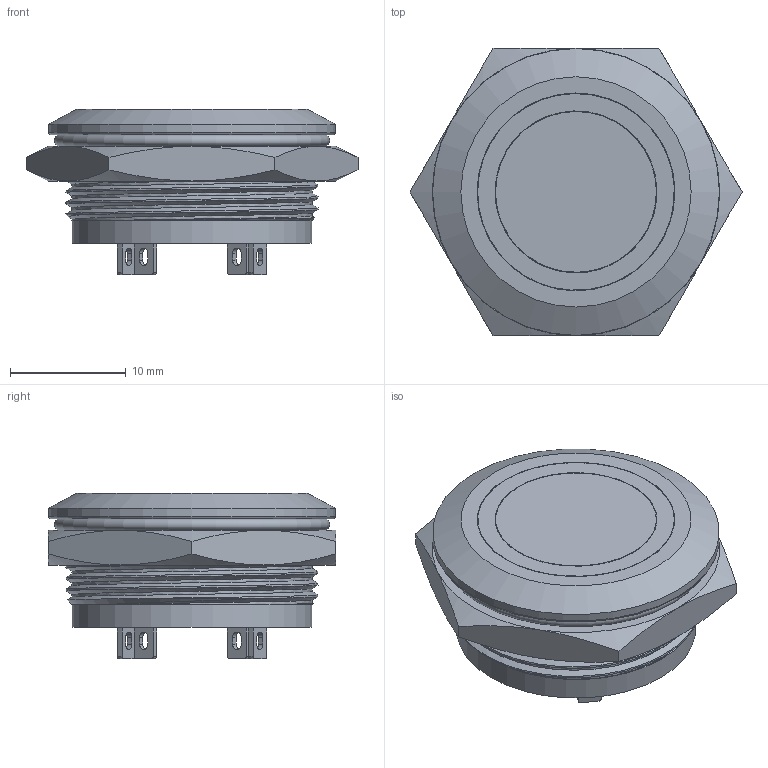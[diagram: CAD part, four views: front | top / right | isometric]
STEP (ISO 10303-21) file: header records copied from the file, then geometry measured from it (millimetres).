
FILE_DESCRIPTION(/* description */ (''),/* implementation_level */ '2;1');
FILE_NAME(/* name */ 'FM22S-SFP-10D1.stp',/* time_stamp */ '2020-08-05T11:12:20+08:00',/* author */ (''),/* organization */ (''),/* preprocessor_version */ 'ST-DEVELOPER v16.7',/* originating_system */ 'SIEMENS PLM Software NX 12.0',/* authorisation */ '');
FILE_SCHEMA (('AUTOMOTIVE_DESIGN { 1 0 10303 214 3 1 1 1 }'));
Length unit declared in the file: millimetre
Products named in the file (1): Admi4F983F75j4mb
Bounding box: 28.7 x 24.85 x 14.3 mm (x, y, z)
Volume: 3125.5 mm3; surface area: 4493.6 mm2
Topology: 2 solids, 4 shells, 251 faces, 627 edges, 416 vertices
Faces by surface type: plane 165, cylinder 49, cone 16, extrusion 12, bspline 5, torus 4
Full cylindrical faces by diameter (mm): 3.8 x1, 13.9 x1, 14 x1, 17 x1, 17.1 x1, 17.65 x1, 18.25 x1, 19.9 x2, 20.1 x2, 20.7 x1, 24.8 x1
Entity records: 9525 total; most frequent: CARTESIAN_POINT 3056, ORIENTED_EDGE 1186, DIRECTION 1117, EDGE_CURVE 593, VECTOR 411, VERTEX_POINT 402, LINE 399, AXIS2_PLACEMENT_3D 353
